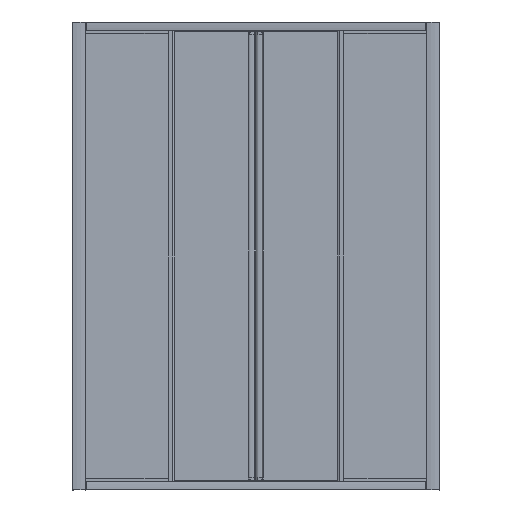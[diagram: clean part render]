
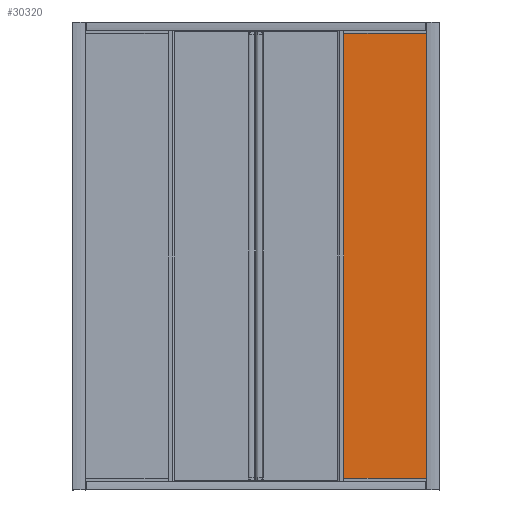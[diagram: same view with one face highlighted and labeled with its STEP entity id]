
A CAD part, left-side view. The second image highlights one B-rep face of the part: STEP entity #30320.
In plain terms, the highlighted planar face has unit normal (-1, 0, 0) as drawn and (0, 1, 0) by its records, which use the part's own axes.
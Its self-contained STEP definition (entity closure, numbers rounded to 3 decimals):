
#1706=PLANE('',#32257);
#2609=FACE_OUTER_BOUND('',#4294,.T.);
#4294=EDGE_LOOP('',(#21640,#21641,#21642,#21643));
#6305=LINE('',#45955,#8958);
#6310=LINE('',#45966,#8963);
#6312=LINE('',#45969,#8965);
#6313=LINE('',#45970,#8966);
#8958=VECTOR('',#36511,1775.);
#8963=VECTOR('',#36520,1775.);
#8965=VECTOR('',#36524,344.);
#8966=VECTOR('',#36525,344.);
#13227=VERTEX_POINT('',#45948);
#13230=VERTEX_POINT('',#45953);
#13233=VERTEX_POINT('',#45963);
#13234=VERTEX_POINT('',#45965);
#16452=EDGE_CURVE('',#13230,#13227,#6305,.T.);
#16457=EDGE_CURVE('',#13234,#13233,#6310,.T.);
#16459=EDGE_CURVE('',#13233,#13227,#6312,.T.);
#16460=EDGE_CURVE('',#13234,#13230,#6313,.T.);
#21640=ORIENTED_EDGE('',*,*,#16459,.T.);
#21641=ORIENTED_EDGE('',*,*,#16452,.F.);
#21642=ORIENTED_EDGE('',*,*,#16460,.F.);
#21643=ORIENTED_EDGE('',*,*,#16457,.T.);
#30320=ADVANCED_FACE('',(#2609),#1706,.T.);
#32257=AXIS2_PLACEMENT_3D('',#45968,#36522,#36523);
#36511=DIRECTION('',(0.,0.,1.));
#36520=DIRECTION('',(0.,0.,1.));
#36522=DIRECTION('center_axis',(0.,1.,0.));
#36523=DIRECTION('ref_axis',(0.,0.,1.));
#36524=DIRECTION('',(1.,0.,0.));
#36525=DIRECTION('',(1.,0.,0.));
#45948=CARTESIAN_POINT('',(314.839,11.329,1775.));
#45953=CARTESIAN_POINT('',(314.839,11.329,0.));
#45955=CARTESIAN_POINT('',(314.839,11.329,0.));
#45963=CARTESIAN_POINT('',(-29.161,11.329,1775.));
#45965=CARTESIAN_POINT('',(-29.161,11.329,0.));
#45966=CARTESIAN_POINT('',(-29.161,11.329,0.));
#45968=CARTESIAN_POINT('Origin',(-29.161,11.329,0.));
#45969=CARTESIAN_POINT('',(-29.161,11.329,1775.));
#45970=CARTESIAN_POINT('',(-29.161,11.329,0.));
